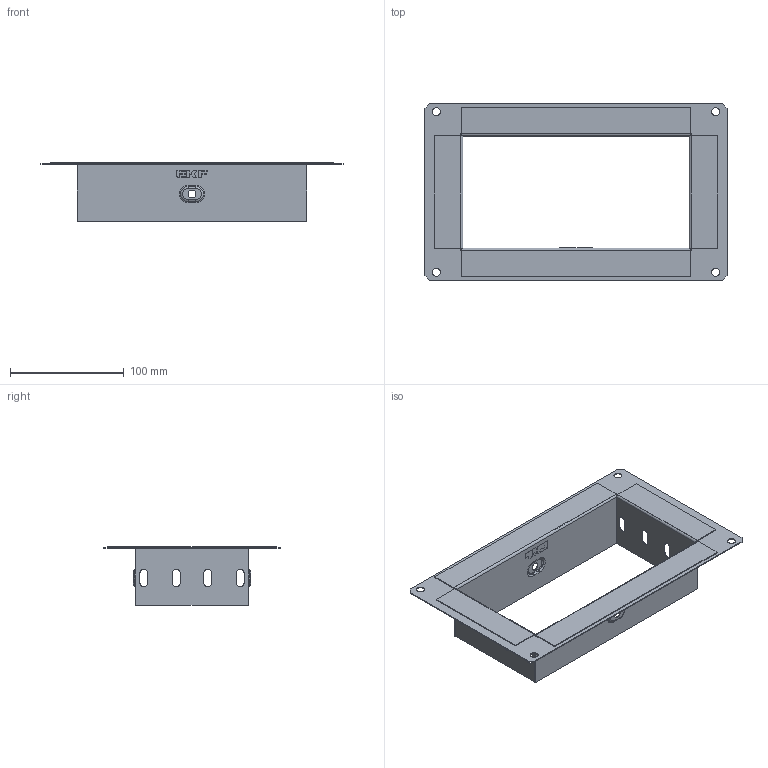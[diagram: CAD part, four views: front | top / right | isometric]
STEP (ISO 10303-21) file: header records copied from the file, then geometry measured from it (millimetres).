
FILE_DESCRIPTION (( 'STEP AP203' ), '1' );
FILE_NAME ('f100200_捘.STEP', '2020-01-23T12:28:48', ( '' ), ( '' ), 'SwSTEP 2.0', 'SolidWorks 2016', '' );
FILE_SCHEMA (( 'CONFIG_CONTROL_DESIGN' ));
Length unit declared in the file: millimetre
Products named in the file (9): f100300_3; f100200_捘; f100200_1; f35200_2
Assembly tree (5 placements, depth 2):
  f100200_捘
    f100200_1
    f35200_2  x2
    f100300_3  x2
  f100200_1
  f35200_2
  f35200_2
  f100300_3
Bounding box: 265 x 155 x 51.5 mm (x, y, z)
Volume: 51659 mm3; surface area: 132082.3 mm2
Topology: 5 solids, 5 shells, 326 faces, 852 edges, 552 vertices
Faces by surface type: plane 220, cylinder 72, bspline 18, torus 16
Entity records: 6612 total; most frequent: CARTESIAN_POINT 1418, ORIENTED_EDGE 912, DIRECTION 878, EDGE_CURVE 456, LINE 346, VECTOR 346, VERTEX_POINT 296, AXIS2_PLACEMENT_3D 266
